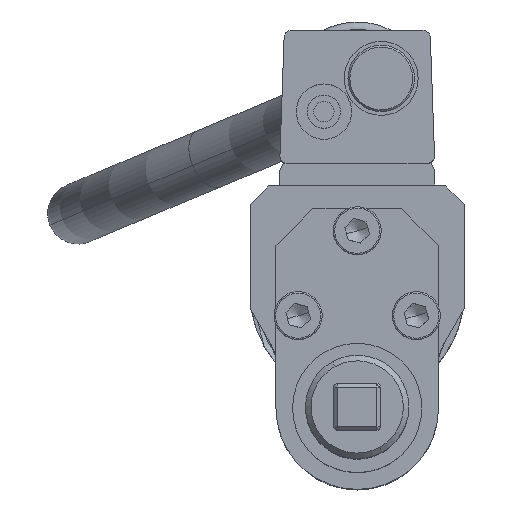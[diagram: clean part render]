
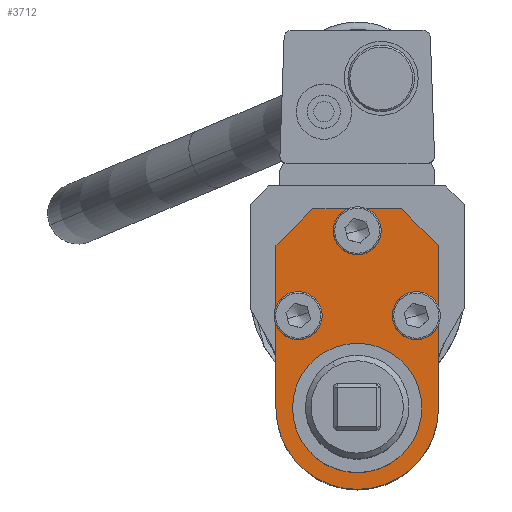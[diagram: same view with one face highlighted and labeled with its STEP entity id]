
A CAD part, top view. The second image highlights one B-rep face of the part: STEP entity #3712.
In plain terms, the highlighted planar face has unit normal (0, 0, 1).
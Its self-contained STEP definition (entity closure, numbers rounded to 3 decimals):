
#3441=CARTESIAN_POINT('Vertex',(17.5,-31.32,385.2)) ;
#3446=CARTESIAN_POINT('Axis2P3D Location',(0.,-31.32,385.2)) ;
#3450=CARTESIAN_POINT('Vertex',(-17.5,-31.32,385.2)) ;
#3472=CARTESIAN_POINT('Axis2P3D Location',(0.,-31.32,385.2)) ;
#3575=CARTESIAN_POINT('Axis2P3D Location',(16.,-6.32,385.2)) ;
#3579=CARTESIAN_POINT('Vertex',(12.206,-4.247,385.2)) ;
#3581=CARTESIAN_POINT('Vertex',(19.794,-8.393,385.2)) ;
#3601=CARTESIAN_POINT('Axis2P3D Location',(16.,-6.32,385.2)) ;
#3613=CARTESIAN_POINT('Axis2P3D Location',(0.,2.78,385.2)) ;
#3618=CARTESIAN_POINT('Line Origine',(-17.,17.68,385.2)) ;
#3622=CARTESIAN_POINT('Vertex',(-12.,22.68,385.2)) ;
#3624=CARTESIAN_POINT('Vertex',(-22.,12.68,385.2)) ;
#3627=CARTESIAN_POINT('Line Origine',(-22.,-9.32,385.2)) ;
#3631=CARTESIAN_POINT('Vertex',(-22.,-31.32,385.2)) ;
#3634=CARTESIAN_POINT('Axis2P3D Location',(0.,-31.32,385.2)) ;
#3638=CARTESIAN_POINT('Vertex',(22.,-31.32,385.2)) ;
#3641=CARTESIAN_POINT('Line Origine',(22.,-9.32,385.2)) ;
#3645=CARTESIAN_POINT('Vertex',(22.,12.68,385.2)) ;
#3648=CARTESIAN_POINT('Line Origine',(17.,17.68,385.2)) ;
#3652=CARTESIAN_POINT('Vertex',(12.,22.68,385.2)) ;
#3655=CARTESIAN_POINT('Line Origine',(0.,22.68,385.2)) ;
#3676=CARTESIAN_POINT('Axis2P3D Location',(-16.,-6.32,385.2)) ;
#3680=CARTESIAN_POINT('Vertex',(-19.794,-4.247,385.2)) ;
#3682=CARTESIAN_POINT('Vertex',(-12.206,-8.393,385.2)) ;
#3685=CARTESIAN_POINT('Axis2P3D Location',(-16.,-6.32,385.2)) ;
#3694=CARTESIAN_POINT('Axis2P3D Location',(0.,16.68,385.2)) ;
#3698=CARTESIAN_POINT('Vertex',(-3.794,18.753,385.2)) ;
#3700=CARTESIAN_POINT('Vertex',(3.794,14.607,385.2)) ;
#3703=CARTESIAN_POINT('Axis2P3D Location',(0.,16.68,385.2)) ;
#3447=DIRECTION('Axis2P3D Direction',(0.,0.,1.)) ;
#3473=DIRECTION('Axis2P3D Direction',(0.,0.,1.)) ;
#3576=DIRECTION('Axis2P3D Direction',(0.,0.,1.)) ;
#3602=DIRECTION('Axis2P3D Direction',(0.,0.,1.)) ;
#3614=DIRECTION('Axis2P3D Direction',(0.,0.,1.)) ;
#3615=DIRECTION('Axis2P3D XDirection',(1.,0.,0.)) ;
#3619=DIRECTION('Vector Direction',(-0.707,-0.707,0.)) ;
#3628=DIRECTION('Vector Direction',(0.,1.,0.)) ;
#3635=DIRECTION('Axis2P3D Direction',(0.,0.,1.)) ;
#3642=DIRECTION('Vector Direction',(0.,-1.,0.)) ;
#3649=DIRECTION('Vector Direction',(0.707,-0.707,0.)) ;
#3656=DIRECTION('Vector Direction',(1.,0.,0.)) ;
#3677=DIRECTION('Axis2P3D Direction',(0.,0.,1.)) ;
#3686=DIRECTION('Axis2P3D Direction',(0.,0.,1.)) ;
#3695=DIRECTION('Axis2P3D Direction',(0.,0.,1.)) ;
#3704=DIRECTION('Axis2P3D Direction',(0.,0.,1.)) ;
#3448=AXIS2_PLACEMENT_3D('Circle Axis2P3D',#3446,#3447,$) ;
#3474=AXIS2_PLACEMENT_3D('Circle Axis2P3D',#3472,#3473,$) ;
#3577=AXIS2_PLACEMENT_3D('Circle Axis2P3D',#3575,#3576,$) ;
#3603=AXIS2_PLACEMENT_3D('Circle Axis2P3D',#3601,#3602,$) ;
#3616=AXIS2_PLACEMENT_3D('Plane Axis2P3D',#3613,#3614,#3615) ;
#3636=AXIS2_PLACEMENT_3D('Circle Axis2P3D',#3634,#3635,$) ;
#3678=AXIS2_PLACEMENT_3D('Circle Axis2P3D',#3676,#3677,$) ;
#3687=AXIS2_PLACEMENT_3D('Circle Axis2P3D',#3685,#3686,$) ;
#3696=AXIS2_PLACEMENT_3D('Circle Axis2P3D',#3694,#3695,$) ;
#3705=AXIS2_PLACEMENT_3D('Circle Axis2P3D',#3703,#3704,$) ;
#3661=ORIENTED_EDGE('',*,*,#3626,.T.) ;
#3662=ORIENTED_EDGE('',*,*,#3633,.T.) ;
#3663=ORIENTED_EDGE('',*,*,#3640,.T.) ;
#3664=ORIENTED_EDGE('',*,*,#3647,.T.) ;
#3665=ORIENTED_EDGE('',*,*,#3654,.T.) ;
#3666=ORIENTED_EDGE('',*,*,#3659,.T.) ;
#3669=ORIENTED_EDGE('',*,*,#3452,.F.) ;
#3670=ORIENTED_EDGE('',*,*,#3476,.F.) ;
#3673=ORIENTED_EDGE('',*,*,#3583,.F.) ;
#3674=ORIENTED_EDGE('',*,*,#3605,.F.) ;
#3691=ORIENTED_EDGE('',*,*,#3684,.F.) ;
#3692=ORIENTED_EDGE('',*,*,#3689,.F.) ;
#3709=ORIENTED_EDGE('',*,*,#3702,.F.) ;
#3710=ORIENTED_EDGE('',*,*,#3707,.F.) ;
#3671=FACE_BOUND('',#3668,.T.) ;
#3675=FACE_BOUND('',#3672,.T.) ;
#3693=FACE_BOUND('',#3690,.T.) ;
#3711=FACE_BOUND('',#3708,.T.) ;
#3620=VECTOR('Line Direction',#3619,1.) ;
#3629=VECTOR('Line Direction',#3628,1.) ;
#3643=VECTOR('Line Direction',#3642,1.) ;
#3650=VECTOR('Line Direction',#3649,1.) ;
#3657=VECTOR('Line Direction',#3656,1.) ;
#3712=ADVANCED_FACE('',(#3667,#3671,#3675,#3693,#3711),#3617,.T.) ;
#3449=CIRCLE('generated circle',#3448,17.5) ;
#3475=CIRCLE('generated circle',#3474,17.5) ;
#3578=CIRCLE('generated circle',#3577,4.324) ;
#3604=CIRCLE('generated circle',#3603,4.324) ;
#3637=CIRCLE('generated circle',#3636,22.) ;
#3679=CIRCLE('generated circle',#3678,4.324) ;
#3688=CIRCLE('generated circle',#3687,4.324) ;
#3697=CIRCLE('generated circle',#3696,4.324) ;
#3706=CIRCLE('generated circle',#3705,4.324) ;
#3452=EDGE_CURVE('',#3442,#3451,#3449,.T.) ;
#3476=EDGE_CURVE('',#3451,#3442,#3475,.T.) ;
#3583=EDGE_CURVE('',#3580,#3582,#3578,.T.) ;
#3605=EDGE_CURVE('',#3582,#3580,#3604,.T.) ;
#3626=EDGE_CURVE('',#3623,#3625,#3621,.T.) ;
#3633=EDGE_CURVE('',#3625,#3632,#3630,.F.) ;
#3640=EDGE_CURVE('',#3632,#3639,#3637,.T.) ;
#3647=EDGE_CURVE('',#3639,#3646,#3644,.F.) ;
#3654=EDGE_CURVE('',#3646,#3653,#3651,.F.) ;
#3659=EDGE_CURVE('',#3653,#3623,#3658,.F.) ;
#3684=EDGE_CURVE('',#3681,#3683,#3679,.T.) ;
#3689=EDGE_CURVE('',#3683,#3681,#3688,.T.) ;
#3702=EDGE_CURVE('',#3699,#3701,#3697,.T.) ;
#3707=EDGE_CURVE('',#3701,#3699,#3706,.T.) ;
#3660=EDGE_LOOP('',(#3661,#3662,#3663,#3664,#3665,#3666)) ;
#3668=EDGE_LOOP('',(#3669,#3670)) ;
#3672=EDGE_LOOP('',(#3673,#3674)) ;
#3690=EDGE_LOOP('',(#3691,#3692)) ;
#3708=EDGE_LOOP('',(#3709,#3710)) ;
#3667=FACE_OUTER_BOUND('',#3660,.T.) ;
#3621=LINE('Line',#3618,#3620) ;
#3630=LINE('Line',#3627,#3629) ;
#3644=LINE('Line',#3641,#3643) ;
#3651=LINE('Line',#3648,#3650) ;
#3658=LINE('Line',#3655,#3657) ;
#3617=PLANE('Plane',#3616) ;
#3442=VERTEX_POINT('',#3441) ;
#3451=VERTEX_POINT('',#3450) ;
#3580=VERTEX_POINT('',#3579) ;
#3582=VERTEX_POINT('',#3581) ;
#3623=VERTEX_POINT('',#3622) ;
#3625=VERTEX_POINT('',#3624) ;
#3632=VERTEX_POINT('',#3631) ;
#3639=VERTEX_POINT('',#3638) ;
#3646=VERTEX_POINT('',#3645) ;
#3653=VERTEX_POINT('',#3652) ;
#3681=VERTEX_POINT('',#3680) ;
#3683=VERTEX_POINT('',#3682) ;
#3699=VERTEX_POINT('',#3698) ;
#3701=VERTEX_POINT('',#3700) ;
